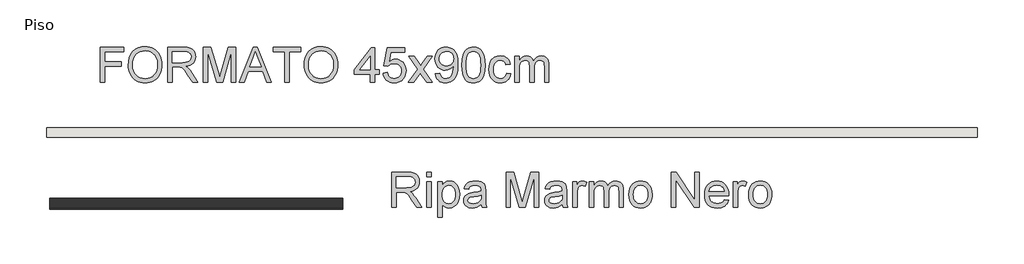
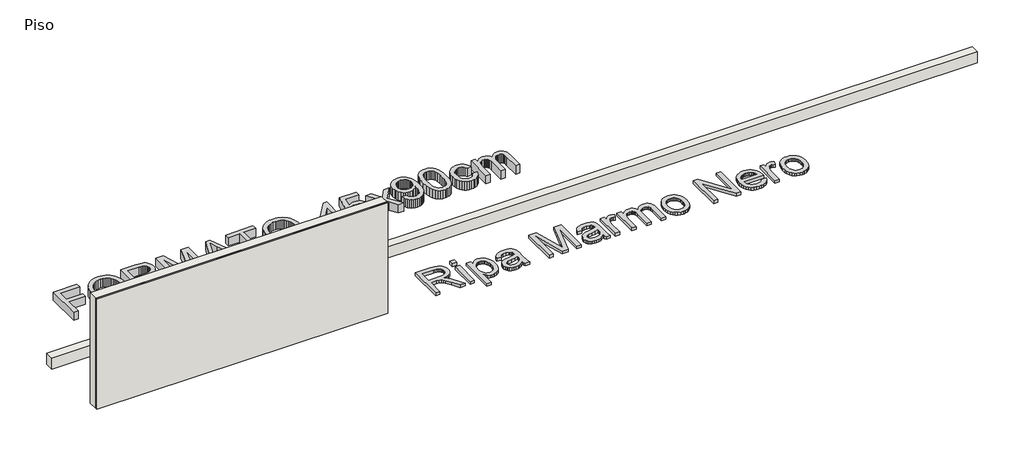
# One storey: 3 walls, 2 proxies.
"""IFC4 building model written with IfcOpenShell, lengths in millimetres."""

from ifc_helpers import new_model, si_unit, origin, origin_with_axes, place, context, project, spatial, polyline, outline, extrude, element, save

model = new_model("IFC4")

# Units and contexts
model_context = context("Model", 3, world=origin())
ifc_project = project(units=[si_unit("LENGTHUNIT", "METRE", prefix="MILLI")], contexts=[model_context])

# Site, building, storey
site = spatial("IfcSite", under=ifc_project)
building = spatial("IfcBuilding", under=site)
storey = spatial("IfcBuildingStorey", under=building, Name="Piso", Elevation=0.0)

# Proxies
placement = place(None, origin())
element("IfcBuildingElementProxy", 1, Name="600mm Arial", ObjectType="600mm Arial", at=placement, inside=storey, context=model_context, shape_type="SweptSolid", body=[
    extrude(outline(polyline([(92602.0859381, 2702.6380465), (92602.0859381, 3305.3759074), (93007.0504384, 3305.3759074), (93007.0504384, 3230.0336748), (92677.4281707, 3230.0336748), (92677.4281707, 3051.0958724), (92959.961543, 3051.0958724), (92959.961543, 2975.7536397), (92677.4281707, 2975.7536397), (92677.4281707, 2702.6380465), (92602.0859381, 2702.6380465)])), origin_with_axes(), (0.0, 0.0, 1.0), 150.0),
    extrude(outline(polyline([(93082.392671, 2996.0607259), (93087.4142602, 3066.7584483), (93102.4790279, 3129.3443727), (93127.5869741, 3183.8184992), (93143.9071391, 3208.0136381), (93162.7380987, 3230.1808276), (93205.8262774, 3267.1989534), (93254.7453857, 3293.6404718), (93309.4954237, 3309.5053828), (93370.0763912, 3314.7936865), (93410.6261841, 3312.310483), (93449.134232, 3304.8608726), (93485.6005348, 3292.4448553), (93520.0250925, 3275.062431), (93551.4422148, 3253.2378317), (93578.8862117, 3227.495289), (93602.357083, 3197.8348032), (93621.8548287, 3164.2563741), (93637.1771138, 3127.5233569), (93648.1216032, 3088.3991067), (93654.6882968, 3046.8836235), (93656.8771947, 3002.9769074), (93654.5733337, 2958.4907771), (93647.6617507, 2916.4142739), (93636.1424457, 2876.7473978), (93620.0154187, 2839.4901487), (93599.6623474, 2805.6266111), (93575.4649091, 2776.1408692), (93547.423104, 2751.032923), (93515.5369321, 2730.3027726), (93481.0617906, 2714.0791766), (93445.2530769, 2702.4908937), (93408.110791, 2695.537924), (93369.6349328, 2693.2202674), (93328.3769671, 2695.7816458), (93289.3630815, 2703.465781), (93252.5932761, 2716.272673), (93218.0675508, 2734.2023217), (93186.6872166, 2756.56035), (93159.3535844, 2782.6523805), (93136.0666541, 2812.4784132), (93116.8264257, 2846.0384482), (93101.761658, 2881.9851177), (93091.0011097, 2918.9710538), (93084.5447807, 2956.9962565), (93082.392671, 2996.0607259)]), holes=[polyline([(93157.7349036, 2995.3249619), (93161.5010955, 2945.375784), (93172.7996713, 2901.0368065), (93191.6306309, 2862.3080295), (93217.9939744, 2829.1894529), (93250.0410947, 2802.665161), (93285.9233848, 2783.7192383), (93325.6408447, 2772.3516846), (93369.1934744, 2768.5625001), (93413.4910652, 2772.3884728), (93453.6775746, 2783.8663911), (93489.7530028, 2802.9962548), (93521.7173496, 2829.7780641), (93547.8875551, 2863.5956165), (93566.5805589, 2903.8327097), (93577.7963613, 2950.4893437), (93581.5349621, 3003.5655186), (93579.9346754, 3038.0452586), (93575.1338153, 3070.2625243), (93567.1323819, 3100.2173158), (93555.9303752, 3127.9096329), (93541.6519553, 3152.9761924), (93524.4212823, 3175.0537106), (93504.2383563, 3194.1421877), (93481.1031774, 3210.2416235), (93455.7331153, 3223.0209243), (93428.84554, 3232.1489963), (93400.4404514, 3237.6258395), (93370.5178496, 3239.4514539), (93328.4781346, 3235.9335823), (93289.4734461, 3225.3799676), (93253.503784, 3207.7906097), (93220.5691484, 3183.1655086), (93193.0791663, 3150.318245), (93173.4434648, 3108.0623993), (93161.6620439, 3056.3979716), (93157.7349036, 2995.3249619)])]), origin_with_axes(), (0.0, 0.0, 1.0), 150.0),
    extrude(outline(polyline([(93760.4727645, 2702.6380465), (93760.4727645, 3305.3759074), (94020.1974531, 3305.3759074), (94090.0030617, 3301.3108114), (94140.7891711, 3289.1155232), (94160.3880844, 3279.4218327), (94177.9084644, 3266.6011451), (94193.3503112, 3250.6534606), (94206.7136247, 3231.5787792), (94217.4971656, 3210.4025718), (94225.1996949, 3188.1503097), (94229.8212125, 3164.8219926), (94231.3617183, 3140.4176208), (94228.809537, 3109.4603509), (94221.152993, 3081.0414668), (94208.3920863, 3055.1609684), (94190.5268169, 3031.8188558), (94167.3272585, 3011.76009), (94138.563485, 2995.7296321), (94104.2354964, 2983.727482), (94064.3432925, 2975.7536397), (94089.1753272, 2959.5300438), (94107.1647568, 2943.527177), (94138.0300562, 2906.9229184), (94168.233168, 2865.9776524), (94268.738529, 2702.6380465), (94181.1826142, 2702.6380465), (94102.7501728, 2827.5707721), (94046.0963456, 2910.2706446), (94025.0351013, 2934.3853094), (94006.2915137, 2949.3397125), (93970.4598074, 2963.6871103), (93926.7554263, 2966.3358607), (93835.8149971, 2966.3358607), (93835.8149971, 2702.6380465), (93760.4727645, 2702.6380465)]), holes=[polyline([(93835.8149971, 3041.6780933), (94004.4521037, 3041.6780933), (94052.8837684, 3044.3452377), (94090.4629142, 3052.3466711), (94118.7530396, 3066.2158224), (94139.3176431, 3086.4861203), (94151.8440251, 3111.0054553), (94156.0194857, 3137.6217176), (94154.0283244, 3156.8895371), (94148.0548405, 3174.3731289), (94138.099034, 3190.0724931), (94124.1609049, 3203.9876296), (94105.9185565, 3215.3827744), (94083.050092, 3223.5221635), (94055.5555114, 3228.405797), (94023.4348147, 3230.0336748), (93835.8149971, 3230.0336748), (93835.8149971, 3041.6780933)])]), origin_with_axes(), (0.0, 0.0, 1.0), 150.0),
    extrude(outline(polyline([(94363.2106254, 2702.6380465), (94363.2106254, 3305.3759074), (94492.8522405, 3305.3759074), (94616.1662853, 2880.5457794), (94641.0351082, 2791.8126422), (94667.9640702, 2887.9034193), (94789.2179758, 3305.3759074), (94918.8595909, 3305.3759074), (94918.8595909, 2702.6380465), (94843.5173583, 2702.6380465), (94843.5173583, 3230.0336748), (94692.0971291, 2702.6380465), (94589.9730872, 2702.6380465), (94438.552858, 3230.0336748), (94438.552858, 2702.6380465), (94363.2106254, 2702.6380465)])), origin_with_axes(), (0.0, 0.0, 1.0), 150.0),
    extrude(outline(polyline([(94980.5166133, 2702.6380465), (95221.1114382, 3305.3759074), (95285.2700581, 3305.3759074), (95525.864883, 2702.6380465), (95446.2552192, 2702.6380465), (95377.2405569, 2890.9936281), (95128.9937866, 2890.9936281), (95060.1262771, 2702.6380465), (94980.5166133, 2702.6380465)]), holes=[polyline([(95156.6585126, 2966.3358607), (95349.7229837, 2966.3358607), (95295.4236012, 3114.5187283), (95253.1907481, 3230.0336748), (95215.6667846, 3127.4681746), (95156.6585126, 2966.3358607)])]), origin_with_axes(), (0.0, 0.0, 1.0), 150.0),
    extrude(outline(polyline([(95757.0419287, 2702.6380465), (95757.0419287, 3230.0336748), (95559.2685681, 3230.0336748), (95559.2685681, 3305.3759074), (96030.1575219, 3305.3759074), (96030.1575219, 3230.0336748), (95832.3841613, 3230.0336748), (95832.3841613, 2702.6380465), (95757.0419287, 2702.6380465)])), origin_with_axes(), (0.0, 0.0, 1.0), 150.0),
    extrude(outline(polyline([(96086.6641964, 2996.0607259), (96091.6857856, 3066.7584483), (96106.7505533, 3129.3443727), (96131.8584995, 3183.8184992), (96148.1786645, 3208.0136381), (96167.0096242, 3230.1808276), (96210.0978028, 3267.1989534), (96259.0169111, 3293.6404718), (96313.7669491, 3309.5053828), (96374.3479166, 3314.7936865), (96414.8977096, 3312.310483), (96453.4057574, 3304.8608726), (96489.8720602, 3292.4448553), (96524.2966179, 3275.062431), (96555.7137403, 3253.2378317), (96583.1577371, 3227.495289), (96606.6286084, 3197.8348032), (96626.1263541, 3164.2563741), (96641.4486392, 3127.5233569), (96652.3931286, 3088.3991067), (96658.9598222, 3046.8836235), (96661.1487201, 3002.9769074), (96658.8448591, 2958.4907771), (96651.9332761, 2916.4142739), (96640.4139711, 2876.7473978), (96624.2869442, 2839.4901487), (96603.9338728, 2805.6266111), (96579.7364345, 2776.1408692), (96551.6946295, 2751.032923), (96519.8084575, 2730.3027726), (96485.3333161, 2714.0791766), (96449.5246024, 2702.4908937), (96412.3823164, 2695.537924), (96373.9064582, 2693.2202674), (96332.6484925, 2695.7816458), (96293.6346069, 2703.465781), (96256.8648015, 2716.272673), (96222.3390762, 2734.2023217), (96190.958742, 2756.56035), (96163.6251098, 2782.6523805), (96140.3381795, 2812.4784132), (96121.0979512, 2846.0384482), (96106.0331835, 2881.9851177), (96095.2726351, 2918.9710538), (96088.8163061, 2956.9962565), (96086.6641964, 2996.0607259)]), holes=[polyline([(96162.006429, 2995.3249619), (96165.7726209, 2945.375784), (96177.0711967, 2901.0368065), (96195.9021564, 2862.3080295), (96222.2654998, 2829.1894529), (96254.3126201, 2802.665161), (96290.1949102, 2783.7192383), (96329.9123701, 2772.3516846), (96373.4649998, 2768.5625001), (96417.7625906, 2772.3884728), (96457.9491, 2783.8663911), (96494.0245282, 2802.9962548), (96525.988875, 2829.7780641), (96552.1590805, 2863.5956165), (96570.8520844, 2903.8327097), (96582.0678867, 2950.4893437), (96585.8064875, 3003.5655186), (96584.2062008, 3038.0452586), (96579.4053407, 3070.2625243), (96571.4039074, 3100.2173158), (96560.2019006, 3127.9096329), (96545.9234807, 3152.9761924), (96528.6928077, 3175.0537106), (96508.5098818, 3194.1421877), (96485.3747028, 3210.2416235), (96460.0046407, 3223.0209243), (96433.1170654, 3232.1489963), (96404.7119768, 3237.6258395), (96374.789375, 3239.4514539), (96332.74966, 3235.9335823), (96293.7449715, 3225.3799676), (96257.7753094, 3207.7906097), (96224.8406738, 3183.1655086), (96197.3506917, 3150.318245), (96177.7149902, 3108.0623993), (96165.9335693, 3056.3979716), (96162.006429, 2995.3249619)])]), origin_with_axes(), (0.0, 0.0, 1.0), 150.0),
    extrude(outline(polyline([(97216.7976856, 2702.6380465), (97216.7976856, 2843.9047327), (96943.6820924, 2843.9047327), (96943.6820924, 2919.2469653), (97235.6332437, 3295.9581283), (97292.1399182, 3295.9581283), (97292.1399182, 2919.2469653), (97367.4821508, 2919.2469653), (97367.4821508, 2843.9047327), (97292.1399182, 2843.9047327), (97292.1399182, 2702.6380465), (97216.7976856, 2702.6380465)]), holes=[polyline([(97216.7976856, 2919.2469653), (97216.7976856, 3152.0426918), (97036.3883552, 2919.2469653), (97216.7976856, 2919.2469653)])]), origin_with_axes(), (0.0, 0.0, 1.0), 150.0),
    extrude(outline(polyline([(97433.4066044, 2862.7402908), (97508.748837, 2872.1580699), (97514.3774315, 2847.937639), (97522.5812, 2826.9269786), (97533.3601424, 2809.1260886), (97546.7142589, 2794.5349689), (97562.6159581, 2783.1720138), (97581.037649, 2775.0556173), (97601.9793316, 2770.1857794), (97625.4410058, 2768.5625001), (97654.1358015, 2770.8203758), (97679.4460827, 2777.594003), (97701.3718496, 2788.8833818), (97719.9131022, 2804.688512), (97734.6559732, 2824.2276445), (97745.1865953, 2846.7190299), (97751.5049685, 2872.1626684), (97753.611093, 2900.5585599), (97751.6383258, 2927.3955515), (97745.7200242, 2951.2526989), (97735.8561882, 2972.1300021), (97722.0468178, 2990.0274612), (97704.2459277, 3004.384056), (97682.4075328, 3014.6387666), (97656.531633, 3020.791593), (97626.6182282, 3022.8425351), (97590.069152, 3019.5683854), (97560.4730455, 3009.7459361), (97536.8366273, 2994.6995625), (97518.166616, 2975.7536397), (97442.8243834, 2985.1714188), (97508.748837, 3295.9581283), (97800.6999883, 3295.9581283), (97800.6999883, 3220.6158957), (97569.6700954, 3220.6158957), (97537.4436326, 3054.6275395), (97564.0323038, 3073.6838269), (97591.2647685, 3087.2954607), (97619.1410267, 3095.462441), (97647.6610783, 3098.1847677), (97684.3527088, 3094.8094504), (97718.0552981, 3084.6834985), (97748.7688462, 3067.806912), (97776.4933531, 3044.1796908), (97799.444591, 3015.2457719), (97815.8383324, 2982.4490921), (97825.6745773, 2945.7896512), (97828.9533256, 2905.2674495), (97826.0010726, 2866.2351698), (97817.1443135, 2829.9252169), (97802.3830485, 2796.3375907), (97781.7172774, 2765.4722913), (97750.4105196, 2733.8620309), (97713.8798375, 2711.2832734), (97672.125231, 2697.7360189), (97625.1467002, 2693.2202674), (97586.2661719, 2696.1219367), (97551.1472369, 2704.8269444), (97519.7898953, 2719.3352906), (97492.1941472, 2739.6469752), (97469.2337122, 2764.7503229), (97451.78231, 2793.633658), (97439.8399407, 2826.2969807), (97433.4066044, 2862.7402908)])), origin_with_axes(), (0.0, 0.0, 1.0), 150.0),
    extrude(outline(polyline([(97866.6244419, 2702.6380465), (98027.609603, 2925.1330772), (97876.0422209, 3145.2736631), (97966.6883446, 3145.2736631), (98039.8232852, 3039.3236485), (98073.9627344, 2989.2916972), (98103.5404468, 3030.200175), (98186.8289305, 3145.2736631), (98277.4750541, 3145.2736631), (98118.2557266, 2925.1330772), (98271.5889422, 2702.6380465), (98180.9428186, 2702.6380465), (98088.6780142, 2836.39994), (98071.7554424, 2860.8273045), (97957.2705655, 2702.6380465), (97866.6244419, 2702.6380465)])), origin_with_axes(), (0.0, 0.0, 1.0), 150.0),
    extrude(outline(polyline([(98328.0956166, 2853.3225117), (98403.4378492, 2862.7402908), (98416.3137191, 2819.9740089), (98425.7866804, 2803.7090262), (98437.2829928, 2790.856149), (98450.6738974, 2781.1026776), (98465.8306356, 2774.1359123), (98501.4416127, 2768.5625001), (98533.392164, 2772.1493495), (98562.4364475, 2782.9098979), (98586.5695064, 2799.6669228), (98603.7863838, 2821.2432018), (98616.8278005, 2849.6069036), (98628.4344775, 2886.7261969), (98636.6014578, 2929.326932), (98639.3237845, 2974.134959), (98638.8823261, 2988.8502388), (98612.7810986, 2956.991658), (98578.6232553, 2931.7549531), (98538.8736058, 2915.3106279), (98495.9969592, 2909.8291862), (98460.2066396, 2913.1769124), (98427.2949966, 2923.2200908), (98397.2620302, 2939.9587216), (98370.1077405, 2963.3928047), (98347.6071579, 2992.2991325), (98331.5353133, 3025.4544973), (98321.8922065, 3062.8588992), (98318.6778375, 3104.5123381), (98322.0485563, 3147.5545315), (98332.1607127, 3186.182141), (98349.0143066, 3220.3951665), (98372.609338, 3250.1936081), (98401.281141, 3274.3358641), (98433.3650495, 3291.5803326), (98468.8610636, 3301.9270137), (98507.7691831, 3305.3759074), (98536.4961684, 3303.4077387), (98563.9631578, 3297.5032327), (98590.1701515, 3287.6623894), (98615.1171493, 3273.8852086), (98637.9718182, 3256.4659962), (98657.9018253, 3235.6990575), (98674.9071705, 3211.5843928), (98688.9878539, 3184.1220018), (98700.0289123, 3151.7299921), (98707.9153825, 3112.8264711), (98712.6472647, 3067.4114388), (98714.2245588, 3015.4848952), (98712.6518632, 2960.950988), (98707.9337766, 2912.2756015), (98700.070299, 2869.4587358), (98689.0614303, 2832.5003908), (98674.9485572, 2800.4992558), (98657.7730666, 2772.5540197), (98637.5349583, 2748.6646826), (98614.2342325, 2728.8312446), (98588.3399385, 2713.2514421), (98560.3211261, 2702.1230117), (98530.1777951, 2695.4459535), (98497.9099456, 2693.2202674), (98464.0739991, 2695.8460252), (98433.4938082, 2703.7232984), (98406.169373, 2716.8520871), (98382.1006935, 2735.2323913), (98361.8947749, 2758.3675703), (98346.1586226, 2785.7609833), (98334.8922365, 2817.4126305), (98328.0956166, 2853.3225117)]), holes=[polyline([(98638.8823261, 3106.2781716), (98636.8497781, 3133.2807101), (98630.7521341, 3157.3401926), (98620.5893939, 3178.4566191), (98606.3615578, 3196.6299896), (98588.7676014, 3211.2441019), (98568.5065005, 3221.6827535), (98545.5782551, 3227.9459445), (98519.9828653, 3230.0336748), (98493.5689381, 3227.7849961), (98469.6566084, 3221.03896), (98448.2458762, 3209.7955666), (98429.3367417, 3194.0548157), (98413.8856979, 3174.7364124), (98402.849238, 3152.7600617), (98396.2273621, 3128.1257636), (98394.0200702, 3100.8335181), (98396.1078005, 3076.3555699), (98402.3709914, 3054.2780516), (98412.8096431, 3034.6009634), (98427.4237553, 3017.3243052), (98445.6063229, 3003.2574174), (98466.7503406, 2993.2096404), (98490.8558083, 2987.1809742), (98517.9227261, 2985.1714188), (98543.1640295, 2987.1809742), (98566.0600852, 2993.2096404), (98586.6108932, 3003.2574174), (98604.8164534, 3017.3243052), (98619.7202727, 3034.9412542), (98630.365858, 3055.639215), (98636.7532091, 3079.4181875), (98638.8823261, 3106.2781716)])]), origin_with_axes(), (0.0, 0.0, 1.0), 150.0),
    extrude(outline(polyline([(98780.1490123, 2999.1509346), (98785.6856363, 3095.6279879), (98792.6064164, 3136.5410643), (98802.2955084, 3172.5705072), (98814.7115257, 3204.0106222), (98829.8130816, 3231.1557149), (98847.6001761, 3254.0057853), (98868.0728091, 3272.5608335), (98891.2999586, 3286.9174283), (98917.3506024, 3297.1721389), (98946.2247405, 3303.3249653), (98977.9223729, 3305.3759074), (99024.3490807, 3300.5198651), (99065.9197461, 3285.9517381), (99100.6845947, 3262.2417435), (99126.6938518, 3229.9600984), (99146.3387503, 3189.3827143), (99162.0105233, 3140.7855028), (99172.274431, 3079.0732981), (99175.6957335, 2999.1509346), (99170.2142918, 2903.2257044), (99163.3624896, 2862.4505838), (99153.7699666, 2826.4671261), (99141.4505183, 2795.0132155), (99126.4179403, 2767.8267361), (99108.6722325, 2744.9076878), (99088.2133951, 2726.2560706), (99064.9586544, 2711.8029067), (99038.8252372, 2701.4792182), (99009.8131434, 2695.2850051), (98977.9223729, 2693.2202674), (98936.4252838, 2696.8071169), (98899.6370843, 2707.5676653), (98867.5577743, 2725.5019125), (98840.1873539, 2750.6098587), (98813.9205795, 2795.9972999), (98795.1585977, 2852.5499596), (98783.9014086, 2920.2678378), (98780.1490123, 2999.1509346)]), holes=[polyline([(98855.4912449, 2999.2980874), (98857.6985369, 2933.8012967), (98864.3204128, 2880.7849027), (98875.3568726, 2840.2489053), (98890.8079164, 2812.1933047), (98909.4963218, 2793.1048277), (98930.2448663, 2779.4702012), (98953.05355, 2771.2894254), (98977.9223729, 2768.5625001), (99002.7911958, 2771.2986224), (99025.5998795, 2779.5069894), (99046.348424, 2793.1876011), (99065.0368294, 2812.3404575), (99080.4878732, 2840.4420434), (99091.524333, 2880.9688437), (99098.1462089, 2933.9208584), (99100.3535009, 2999.2980874), (99098.2197853, 3063.0612342), (99091.8186386, 3115.1441277), (99081.1500607, 3155.5467678), (99066.2140517, 3184.2691546), (99047.8383461, 3204.2911322), (99026.8506783, 3218.5925448), (99003.2510483, 3227.1733923), (98977.0394561, 3230.0336748), (98952.2993919, 3227.5136831), (98929.8769843, 3219.9537081), (98909.7722333, 3207.3537498), (98891.9851388, 3189.7138081), (98876.0190602, 3158.4438385), (98864.6147184, 3116.2845619), (98857.7721133, 3063.2359782), (98855.4912449, 2999.2980874)])]), origin_with_axes(), (0.0, 0.0, 1.0), 150.0),
    extrude(outline(polyline([(99542.9891175, 2862.7402908), (99618.3313501, 2853.3225117), (99610.1367787, 2817.7713154), (99597.3252882, 2786.3128063), (99579.8968787, 2758.9469844), (99557.8515501, 2735.6738497), (99532.1182045, 2717.1004075), (99503.625744, 2703.833663), (99472.3741685, 2695.8736163), (99438.3634781, 2693.2202674), (99396.1076324, 2696.92208), (99358.2203854, 2708.0275178), (99324.7017371, 2726.5365806), (99295.5516875, 2752.4492687), (99271.9566561, 2785.2781382), (99255.1030622, 2824.5357456), (99244.9909058, 2870.2220909), (99241.620187, 2922.337174), (99247.3775403, 2989.3836677), (99254.5742318, 3019.5545898), (99264.6495999, 3047.4906288), (99277.6726226, 3072.6307646), (99293.7122776, 3094.4139773), (99312.7685649, 3112.8402667), (99334.8414846, 3127.9096329), (99358.9331568, 3139.6266745), (99384.0457015, 3147.9959899), (99410.1791187, 3153.0175791), (99437.3334085, 3154.6914422), (99470.7600863, 3152.3921797), (99500.9953877, 3145.4943923), (99528.0393129, 3133.99808), (99551.8918618, 3117.9032427), (99572.1483641, 3097.5777624), (99588.4041498, 3073.3895213), (99600.6592188, 3045.3385191), (99608.913571, 3013.4247561), (99533.5713384, 3004.006977), (99519.9045223, 3036.8772332), (99498.6225489, 3060.440075), (99470.9026405, 3074.6219259), (99437.9220197, 3079.3492096), (99412.3220313, 3077.022356), (99389.2328376, 3070.0417951), (99368.6544385, 3058.407527), (99350.586834, 3042.1195517), (99335.8761527, 3020.8007901), (99325.3685232, 2994.0741631), (99319.0639456, 2961.9396708), (99316.9624197, 2924.3973132), (99319.0179603, 2886.289337), (99325.1845822, 2853.7823642), (99335.4622855, 2826.8763948), (99349.85107, 2805.5714288), (99367.5599896, 2789.3800225), (99387.7980978, 2777.8147322), (99410.5653948, 2770.8755581), (99435.8618805, 2768.5625001), (99474.8757661, 2774.3382474), (99491.7477541, 2781.5579315), (99506.8631056, 2791.6654894), (99519.7987562, 2804.7712854), (99530.1316418, 2820.9856844), (99537.8617622, 2840.3086862), (99542.9891175, 2862.7402908)])), origin_with_axes(), (0.0, 0.0, 1.0), 150.0),
    extrude(outline(polyline([(99684.2558036, 2702.6380465), (99684.2558036, 3145.2736631), (99759.5980363, 3145.2736631), (99759.5980363, 3072.4330281), (99782.2595672, 3105.8918955), (99811.3958212, 3132.1034877), (99846.0135169, 3149.0444536), (99885.119373, 3154.6914422), (99927.0211323, 3148.934089), (99944.854212, 3141.7373974), (99960.6087584, 3131.6620293), (99985.6983105, 3104.0156974), (100002.1058475, 3067.1355273), (100029.5682384, 3105.4412401), (100060.8933903, 3132.8024635), (100096.0813031, 3149.2191975), (100135.1319769, 3154.6914422), (100165.293702, 3152.4151724), (100191.7674101, 3145.5863628), (100214.5531012, 3134.2050136), (100233.6507752, 3118.2711247), (100248.7477326, 3097.6007551), (100259.5312736, 3072.0099638), (100266.0013982, 3041.4987508), (100268.1581064, 3006.0671161), (100268.1581064, 2702.6380465), (100192.8158738, 2702.6380465), (100192.8158738, 2973.6935006), (100191.0684343, 3011.2726464), (100185.8261159, 3036.6013217), (100176.0036666, 3053.9469578), (100160.5158346, 3067.5769857), (100140.5950246, 3076.4061536), (100117.4736412, 3079.3492096), (100096.1226899, 3077.4638144), (100076.6571338, 3071.8076287), (100059.076973, 3062.3806526), (100043.3822073, 3049.182886), (100030.4741478, 3031.8280529), (100021.2541053, 3009.9298771), (100015.7220798, 2983.4883587), (100013.8780713, 2952.5034976), (100013.8780713, 2702.6380465), (99938.5358387, 2702.6380465), (99938.5358387, 2982.0812101), (99934.1764371, 3024.6819451), (99928.727185, 3041.4021818), (99921.0982321, 3055.0689979), (99910.9860758, 3065.6915905), (99898.0872133, 3073.2791567), (99882.4016448, 3077.8316964), (99863.9293701, 3079.3492096), (99834.9034807, 3075.3025076), (99808.1584596, 3063.1624018), (99786.0855399, 3043.2231977), (99771.0759545, 3015.7792008), (99762.4675158, 2977.7034143), (99759.5980363, 2925.8688412), (99759.5980363, 2702.6380465), (99684.2558036, 2702.6380465)])), origin_with_axes(), (0.0, 0.0, 1.0), 150.0),
])
element("IfcBuildingElementProxy", 2, Name="600mm Arial", ObjectType="600mm Arial", at=placement, inside=storey, context=model_context, shape_type="SweptSolid", body=[
    extrude(outline(polyline([(97584.9871442, 566.0682112), (97584.9871442, 1168.8060721), (97844.7118328, 1168.8060721), (97914.5174414, 1164.740976), (97965.3035509, 1152.5456879), (97984.9024642, 1142.8519973), (98002.4228442, 1130.0313098), (98017.8646909, 1114.0836253), (98031.2280044, 1095.0089438), (98042.0115454, 1073.8327365), (98049.7140747, 1051.5804743), (98054.3355922, 1028.2521573), (98055.8760981, 1003.8477854), (98053.3239167, 972.8905155), (98045.6673727, 944.4716314), (98032.906466, 918.5911331), (98015.0411966, 895.2490205), (97991.8416383, 875.1902547), (97963.0778648, 859.1597967), (97928.7498761, 847.1576466), (97888.8576723, 839.1838044), (97913.6897069, 822.9602084), (97931.6791365, 806.9573416), (97962.5444359, 770.3530831), (97992.7475477, 729.407817), (98093.2529088, 566.0682112), (98005.6969939, 566.0682112), (97927.2645526, 691.0009367), (97870.6107253, 773.7008093), (97849.5494811, 797.815474), (97830.8058934, 812.7698771), (97794.9741871, 827.117275), (97751.2698061, 829.7660253), (97660.3293769, 829.7660253), (97660.3293769, 566.0682112), (97584.9871442, 566.0682112)]), holes=[polyline([(97660.3293769, 905.1082579), (97828.9664834, 905.1082579), (97877.3981481, 907.7754024), (97914.9772939, 915.7768358), (97943.2674193, 929.645987), (97963.8320229, 949.9162849), (97976.3584048, 974.4356199), (97980.5338655, 1001.0518823), (97978.5427042, 1020.3197018), (97972.5692203, 1037.8032936), (97962.6134138, 1053.5026577), (97948.6752847, 1067.4177942), (97930.4329362, 1078.812939), (97907.5644717, 1086.9523281), (97880.0698911, 1091.8359616), (97847.9491944, 1093.4638395), (97660.3293769, 1093.4638395), (97660.3293769, 905.1082579)])]), origin_with_axes(), (0.0, 0.0, 1.0), 50.0),
    extrude(outline(polyline([(98178.3072261, 1093.4638395), (98178.3072261, 1168.8060721), (98253.6494587, 1168.8060721), (98253.6494587, 1093.4638395), (98178.3072261, 1093.4638395)])), origin_with_axes(), (0.0, 0.0, 1.0), 50.0),
    extrude(outline(polyline([(98178.3072261, 566.0682112), (98178.3072261, 1008.7038278), (98253.6494587, 1008.7038278), (98253.6494587, 566.0682112), (98178.3072261, 566.0682112)])), origin_with_axes(), (0.0, 0.0, 1.0), 50.0),
    extrude(outline(polyline([(98366.6628076, 396.5481878), (98366.6628076, 1008.7038278), (98442.0050402, 1008.7038278), (98442.0050402, 934.8331231), (98466.5795575, 971.2718348), (98494.0971307, 997.2994859), (98526.1764407, 1012.9160766), (98564.4361682, 1018.1216069), (98590.7121397, 1016.300591), (98615.3878245, 1010.8375433), (98638.4632227, 1001.732464), (98659.9383342, 988.9853528), (98679.3441094, 972.9273037), (98696.2114989, 953.8894105), (98710.5405026, 931.8716731), (98722.3311205, 906.8740915), (98738.1132581, 851.3606984), (98743.3739707, 790.7705338), (98737.4326764, 726.3360024), (98730.0060587, 696.670918), (98719.6087938, 668.7072878), (98706.383436, 643.1762774), (98690.4725398, 620.8090521), (98671.8761049, 601.6056119), (98650.5941315, 585.5659569), (98627.6704847, 572.9154148), (98604.1490296, 563.8793133), (98580.0297663, 558.4576524), (98555.3126947, 556.6504321), (98520.6766049, 561.4880803), (98489.7561232, 576.001025), (98463.2870136, 597.9083979), (98442.0050402, 624.9293304), (98442.0050402, 396.5481878), (98366.6628076, 396.5481878)]), holes=[polyline([(98442.0050402, 783.8543523), (98444.0421868, 747.5443994), (98450.1536264, 716.311218), (98460.3393591, 690.1548082), (98474.599385, 669.0751698), (98491.7656786, 652.8515738), (98510.6702146, 641.263291), (98531.3129931, 634.3103213), (98553.6940139, 631.9926647), (98576.3969316, 634.3930947), (98597.4167891, 641.5943848), (98616.7535864, 653.5965349), (98634.4073237, 670.399545), (98649.118005, 692.2425385), (98659.6256345, 719.3646386), (98665.9302122, 751.7658453), (98668.031738, 789.4461586), (98665.9807959, 825.4434119), (98659.8279696, 856.621411), (98649.5732589, 882.9801559), (98635.2166641, 904.5196467), (98618.0089838, 921.2582775), (98599.2010168, 933.2144424), (98578.7927631, 940.3881413), (98556.7842227, 942.7793742), (98534.8446602, 940.2363899), (98514.2018818, 932.6074371), (98494.8558873, 919.8925156), (98476.806677, 902.0916256), (98461.5809609, 879.4438902), (98450.7054494, 852.1884329), (98444.1801425, 820.3252536), (98442.0050402, 783.8543523)])]), origin_with_axes(), (0.0, 0.0, 1.0), 50.0),
    extrude(outline(polyline([(99110.6673546, 622.5748856), (99074.6701014, 591.7095862), (99037.6059904, 571.5128647), (98998.628893, 560.3660403), (98956.8926807, 556.6504321), (98923.3464412, 558.8853152), (98893.9296772, 565.5899646), (98868.6423885, 576.7643802), (98847.4845753, 592.408562), (98830.7781342, 611.5292287), (98818.844962, 633.1330989), (98811.6850586, 657.2201725), (98809.2984242, 683.7904496), (98812.9036677, 715.023631), (98823.7193984, 743.3873329), (98840.4028469, 767.6675445), (98861.6112439, 786.6502555), (98886.5352491, 800.9976533), (98914.365522, 811.3719256), (98979.5542116, 822.702691), (99056.5887014, 834.6220677), (99110.2258963, 848.6015835), (99110.6673546, 865.3770025), (99105.4802185, 899.0014168), (99098.9962983, 911.4542223), (99089.9188101, 921.0007601), (99074.228643, 930.5289038), (99055.1171734, 937.3347207), (99006.6303264, 942.7793742), (98961.748723, 939.1557366), (98930.405177, 928.2848236), (98909.0312331, 908.1800726), (98894.0584359, 876.8549207), (98818.7162033, 886.2726998), (98831.7944082, 927.4754832), (98851.310548, 959.8490988), (98879.0856387, 984.6075571), (98916.940696, 1002.9648687), (98963.2386451, 1014.3324223), (99016.3424111, 1018.1216069), (99067.2756733, 1014.7738807), (99107.6507223, 1004.7307022), (99138.0929574, 989.6291463), (99159.227778, 971.1062879), (99173.244082, 948.2056337), (99182.3307673, 919.9706905), (99186.0095873, 854.046237), (99186.0095873, 760.3099046), (99189.83556, 629.4174907), (99195.5009427, 597.0622693), (99204.8451454, 566.0682112), (99129.5029128, 566.0682112), (99117.4363834, 592.2614092), (99110.6673546, 622.5748856)]), holes=[polyline([(99110.6673546, 773.2593509), (99060.0467921, 760.7145748), (98989.1191434, 750.1563616), (98924.2983359, 737.9426793), (98907.4309464, 729.591758), (98894.9413527, 718.0770516), (98887.2158308, 704.2814768), (98884.6406568, 689.0879504), (98890.2508572, 666.6839369), (98907.0814585, 648.3266253), (98934.7645787, 636.0761549), (98972.9323357, 631.9926647), (99013.3993551, 636.4992192), (99049.1574851, 650.0188825), (99078.1465863, 669.9396925), (99098.3065196, 693.6496871), (99107.2460521, 718.0770516), (99110.2258963, 751.9221951), (99110.6673546, 773.2593509)])]), origin_with_axes(), (0.0, 0.0, 1.0), 50.0),
    extrude(outline(polyline([(99534.4674131, 566.0682112), (99534.4674131, 1168.8060721), (99664.1090282, 1168.8060721), (99787.423073, 743.975944), (99812.2918958, 655.2428068), (99839.2208579, 751.3335839), (99960.4747635, 1168.8060721), (100090.1163786, 1168.8060721), (100090.1163786, 566.0682112), (100014.774146, 566.0682112), (100014.774146, 1093.4638395), (99863.3539168, 566.0682112), (99761.2298749, 566.0682112), (99609.8096457, 1093.4638395), (99609.8096457, 566.0682112), (99534.4674131, 566.0682112)])), origin_with_axes(), (0.0, 0.0, 1.0), 50.0),
    extrude(outline(polyline([(100495.0808789, 622.5748856), (100459.0836257, 591.7095862), (100422.0195147, 571.5128647), (100383.0424173, 560.3660403), (100341.3062049, 556.6504321), (100307.7599655, 558.8853152), (100278.3432014, 565.5899646), (100253.0559128, 576.7643802), (100231.8980995, 592.408562), (100215.1916584, 611.5292287), (100203.2584862, 633.1330989), (100196.0985829, 657.2201725), (100193.7119484, 683.7904496), (100197.317192, 715.023631), (100208.1329227, 743.3873329), (100224.8163711, 767.6675445), (100246.0247682, 786.6502555), (100270.9487733, 800.9976533), (100298.7790463, 811.3719256), (100363.9677358, 822.702691), (100441.0022256, 834.6220677), (100494.6394205, 848.6015835), (100495.0808789, 865.3770025), (100489.8937428, 899.0014168), (100483.4098226, 911.4542223), (100474.3323344, 921.0007601), (100458.6421673, 930.5289038), (100439.5306976, 937.3347207), (100391.0438507, 942.7793742), (100346.1622472, 939.1557366), (100314.8187013, 928.2848236), (100293.4447573, 908.1800726), (100278.4719601, 876.8549207), (100203.1297275, 886.2726998), (100216.2079325, 927.4754832), (100235.7240723, 959.8490988), (100263.4991629, 984.6075571), (100301.3542202, 1002.9648687), (100347.6521693, 1014.3324223), (100400.7559353, 1018.1216069), (100451.6891976, 1014.7738807), (100492.0642465, 1004.7307022), (100522.5064816, 989.6291463), (100543.6413023, 971.1062879), (100557.6576063, 948.2056337), (100566.7442916, 919.9706905), (100570.4231115, 854.046237), (100570.4231115, 760.3099046), (100574.2490843, 629.4174907), (100579.914467, 597.0622693), (100589.2586697, 566.0682112), (100513.916437, 566.0682112), (100501.8499076, 592.2614092), (100495.0808789, 622.5748856)]), holes=[polyline([(100495.0808789, 773.2593509), (100444.4603164, 760.7145748), (100373.5326677, 750.1563616), (100308.7118601, 737.9426793), (100291.8444707, 729.591758), (100279.3548769, 718.0770516), (100271.629355, 704.2814768), (100269.0541811, 689.0879504), (100274.6643815, 666.6839369), (100291.4949828, 648.3266253), (100319.1781029, 636.0761549), (100357.3458599, 631.9926647), (100397.8128794, 636.4992192), (100433.5710093, 650.0188825), (100462.5601105, 669.9396925), (100482.7200439, 693.6496871), (100491.6595763, 718.0770516), (100494.6394205, 751.9221951), (100495.0808789, 773.2593509)])]), origin_with_axes(), (0.0, 0.0, 1.0), 50.0),
    extrude(outline(polyline([(100674.0186813, 566.0682112), (100674.0186813, 1008.7038278), (100739.9431349, 1008.7038278), (100739.9431349, 943.2208326), (100764.296923, 981.1862545), (100786.7377247, 1003.5534798), (100809.2521028, 1014.4795751), (100833.8266201, 1018.1216069), (100871.3505836, 1012.3090713), (100909.4631583, 994.8714648), (100884.3000298, 927.3283304), (100857.8125261, 938.9166133), (100831.3250225, 942.7793742), (100808.8290385, 939.0637661), (100788.7242874, 927.9169416), (100772.4822974, 910.1850295), (100761.5745962, 886.7141582), (100752.4143345, 844.6284579), (100749.360914, 798.7167849), (100749.360914, 566.0682112), (100674.0186813, 566.0682112)])), origin_with_axes(), (0.0, 0.0, 1.0), 50.0),
    extrude(outline(polyline([(100956.5520536, 566.0682112), (100956.5520536, 1008.7038278), (101031.8942863, 1008.7038278), (101031.8942863, 935.8631927), (101054.5558172, 969.3220602), (101083.6920712, 995.5336523), (101118.3097669, 1012.4746182), (101157.415623, 1018.1216069), (101199.3173823, 1012.3642536), (101217.150462, 1005.1675621), (101232.9050084, 995.092194), (101257.9945605, 967.445862), (101274.4020975, 930.565692), (101301.8644884, 968.8714047), (101333.1896403, 996.2326281), (101368.3775531, 1012.6493622), (101407.4282269, 1018.1216069), (101437.589952, 1015.845337), (101464.0636601, 1009.0165275), (101486.8493512, 997.6351782), (101505.9470252, 981.7012893), (101521.0439826, 961.0309197), (101531.8275236, 935.4401284), (101538.2976482, 904.9289155), (101540.4543564, 869.4972808), (101540.4543564, 566.0682112), (101465.1121238, 566.0682112), (101465.1121238, 837.1236652), (101463.3646843, 874.702811), (101458.1223659, 900.0314864), (101448.2999166, 917.3771225), (101432.8120846, 931.0071504), (101412.8912746, 939.8363183), (101389.7698912, 942.7793742), (101368.4189399, 940.893979), (101348.9533838, 935.2377933), (101331.373223, 925.8108172), (101315.6784573, 912.6130506), (101302.7703978, 895.2582175), (101293.5503553, 873.3600417), (101288.0183298, 846.9185233), (101286.1743213, 815.9336623), (101286.1743213, 566.0682112), (101210.8320887, 566.0682112), (101210.8320887, 845.5113747), (101206.4726871, 888.1121098), (101201.023435, 904.8323464), (101193.3944821, 918.4991626), (101183.2823258, 929.1217552), (101170.3834633, 936.7093213), (101154.6978948, 941.261861), (101136.2256201, 942.7793742), (101107.1997307, 938.7326723), (101080.4547096, 926.5925665), (101058.3817899, 906.6533623), (101043.3722045, 879.2093655), (101034.7637658, 841.133579), (101031.8942863, 789.2990059), (101031.8942863, 566.0682112), (100956.5520536, 566.0682112)])), origin_with_axes(), (0.0, 0.0, 1.0), 50.0),
    extrude(outline(polyline([(101634.6321472, 787.3860195), (101638.7064403, 844.7112314), (101650.9293195, 894.1085863), (101671.300785, 935.5780842), (101699.8208367, 969.1197251), (101728.5340264, 990.5580484), (101760.2270603, 1005.8711364), (101794.8999384, 1015.0589892), (101832.5526606, 1018.1216069), (101874.1187275, 1014.3922031), (101911.7024718, 1003.2039919), (101945.3038936, 984.5569733), (101974.9229927, 958.4511472), (101999.0974383, 925.7694305), (102016.3648994, 887.3947399), (102026.7253761, 843.3270754), (102030.1788684, 793.566437), (102028.6521581, 753.2373733), (102024.0720272, 717.4516522), (102016.4384758, 686.2092738), (102005.7515039, 659.510238), (101992.1444686, 636.4486354), (101975.7507272, 616.1185566), (101956.5702797, 598.5200017), (101934.603126, 583.6529705), (101910.7045919, 571.83936), (101885.730003, 563.4010667), (101859.6793592, 558.3380908), (101832.5526606, 556.6504321), (101790.3795883, 560.3660403), (101752.4463561, 571.5128647), (101718.7529639, 590.0909055), (101689.2994116, 616.1001625), (101665.3824834, 649.0991775), (101648.2989633, 688.646492), (101638.0488512, 734.742106), (101634.6321472, 787.3860195)]), holes=[polyline([(101709.9743798, 787.5331723), (101712.1540806, 750.9886946), (101718.6931831, 719.3462445), (101729.5916872, 692.6058219), (101744.8495929, 670.767427), (101763.4092396, 653.8034685), (101784.2129664, 641.6863553), (101807.2607734, 634.4160874), (101832.5526606, 631.9926647), (101857.715789, 634.4298829), (101880.6716255, 641.7415376), (101901.4201701, 653.9276287), (101919.9614226, 670.9881562), (101935.2193284, 693.0426818), (101946.1178325, 720.2107672), (101952.6569349, 752.4924122), (101954.8366358, 789.887617), (101952.6431394, 825.2732665), (101946.0626502, 856.0879821), (101935.0951682, 882.3317639), (101919.7406934, 904.0046119), (101901.130463, 920.9685705), (101880.395714, 933.0856837), (101857.5364466, 940.3559516), (101832.5526606, 942.7793742), (101807.2607734, 940.3651486), (101784.2129664, 933.1224719), (101763.4092396, 921.0513439), (101744.8495929, 904.1517647), (101729.5916872, 882.3777492), (101718.6931831, 855.6833119), (101712.1540806, 824.0684529), (101709.9743798, 787.5331723)])]), origin_with_axes(), (0.0, 0.0, 1.0), 50.0),
    extrude(outline(polyline([(102359.801136, 566.0682112), (102359.801136, 1168.8060721), (102440.4408694, 1168.8060721), (102755.3478573, 691.2952423), (102755.3478573, 1168.8060721), (102830.6900899, 1168.8060721), (102830.6900899, 566.0682112), (102750.0503565, 566.0682112), (102435.1433687, 1043.7261937), (102435.1433687, 566.0682112), (102359.801136, 566.0682112)])), origin_with_axes(), (0.0, 0.0, 1.0), 50.0),
    extrude(outline(polyline([(103263.0250106, 697.9171182), (103336.8957152, 688.4993392), (103325.5695483, 658.9124297), (103310.2794529, 632.8387933), (103291.025429, 610.2784299), (103267.8074765, 591.2313396), (103240.8647189, 576.1021926), (103210.4362794, 565.295659), (103176.522158, 558.8117388), (103139.1223546, 556.6504321), (103092.3737501, 560.3798358), (103050.7203112, 571.568047), (103014.1620379, 590.2150656), (102982.6989303, 616.3208917), (102957.3978461, 649.1589583), (102939.325643, 688.0026985), (102928.4823212, 732.8521122), (102924.8678806, 783.7071995), (102928.5191094, 836.2867337), (102939.4727958, 882.630668), (102957.7289399, 922.7390026), (102983.2875415, 956.6117373), (103014.6678757, 983.5223052), (103050.3892174, 1002.7441395), (103090.4515667, 1014.27724), (103134.8549235, 1018.1216069), (103177.828139, 1014.2864371), (103216.6902733, 1002.7809277), (103251.4413263, 983.6050787), (103282.081298, 956.7588901), (103307.0926751, 922.9597317), (103324.9579445, 882.9249736), (103335.6771061, 836.6546157), (103339.25016, 784.1486579), (103338.8087016, 763.8415718), (103000.2101132, 763.8415718), (103004.5741134, 733.7764157), (103013.25153, 707.4452619), (103026.2423629, 684.8481104), (103043.5466123, 665.9849611), (103064.2077848, 651.1133314), (103087.2693874, 640.4907388), (103112.73142, 634.1171832), (103140.5938826, 631.9926647), (103180.6930201, 635.9290021), (103214.4645872, 647.7380141), (103241.9085841, 668.1554648), (103263.0250106, 697.9171182)]), holes=[polyline([(103000.2101132, 839.1838044), (103263.9079274, 839.1838044), (103253.7175961, 878.9886363), (103244.9528076, 894.6420152), (103233.7416038, 907.4627027), (103213.1953944, 922.9137465), (103189.8164936, 933.9502064), (103163.6049014, 940.5720823), (103134.5606179, 942.7793742), (103108.0685157, 941.0181392), (103083.7745085, 935.734434), (103061.6785961, 926.9282588), (103041.7807787, 914.5996134), (103025.0835346, 899.318715), (103012.5893424, 881.6557807), (103004.2982019, 861.6108105), (103000.2101132, 839.1838044)])]), origin_with_axes(), (0.0, 0.0, 1.0), 50.0),
    extrude(outline(polyline([(103414.5923926, 566.0682112), (103414.5923926, 1008.7038278), (103480.5168462, 1008.7038278), (103480.5168462, 943.2208326), (103504.8706342, 981.1862545), (103527.3114359, 1003.5534798), (103549.825814, 1014.4795751), (103574.4003313, 1018.1216069), (103611.9242948, 1012.3090713), (103650.0368695, 994.8714648), (103624.8737411, 927.3283304), (103598.3862374, 938.9166133), (103571.8987338, 942.7793742), (103549.4027497, 939.0637661), (103529.2979987, 927.9169416), (103513.0560086, 910.1850295), (103502.1483075, 886.7141582), (103492.9880458, 844.6284579), (103489.9346252, 798.7167849), (103489.9346252, 566.0682112), (103414.5923926, 566.0682112)])), origin_with_axes(), (0.0, 0.0, 1.0), 50.0),
    extrude(outline(polyline([(103678.2902068, 787.3860195), (103682.3644999, 844.7112314), (103694.5873791, 894.1085863), (103714.9588446, 935.5780842), (103743.4788963, 969.1197251), (103772.192086, 990.5580484), (103803.8851199, 1005.8711364), (103838.557998, 1015.0589892), (103876.2107202, 1018.1216069), (103917.7767871, 1014.3922031), (103955.3605314, 1003.2039919), (103988.9619532, 984.5569733), (104018.5810523, 958.4511472), (104042.7554979, 925.7694305), (104060.0229591, 887.3947399), (104070.3834357, 843.3270754), (104073.836928, 793.566437), (104072.3102177, 753.2373733), (104067.7300869, 717.4516522), (104060.0965355, 686.2092738), (104049.4095635, 659.510238), (104035.8025282, 636.4486354), (104019.4087868, 616.1185566), (104000.2283393, 598.5200017), (103978.2611856, 583.6529705), (103954.3626515, 571.83936), (103929.3880626, 563.4010667), (103903.3374188, 558.3380908), (103876.2107202, 556.6504321), (103834.0376479, 560.3660403), (103796.1044157, 571.5128647), (103762.4110235, 590.0909055), (103732.9574712, 616.1001625), (103709.040543, 649.0991775), (103691.9570229, 688.646492), (103681.7069108, 734.742106), (103678.2902068, 787.3860195)]), holes=[polyline([(103753.6324394, 787.5331723), (103755.8121402, 750.9886946), (103762.3512427, 719.3462445), (103773.2497468, 692.6058219), (103788.5076525, 670.767427), (103807.0672992, 653.8034685), (103827.871026, 641.6863553), (103850.918833, 634.4160874), (103876.2107202, 631.9926647), (103901.3738486, 634.4298829), (103924.3296851, 641.7415376), (103945.0782297, 653.9276287), (103963.6194822, 670.9881562), (103978.877388, 693.0426818), (103989.7758921, 720.2107672), (103996.3149945, 752.4924122), (103998.4946954, 789.887617), (103996.301199, 825.2732665), (103989.7207098, 856.0879821), (103978.7532278, 882.3317639), (103963.398753, 904.0046119), (103944.7885226, 920.9685705), (103924.0537736, 933.0856837), (103901.1945062, 940.3559516), (103876.2107202, 942.7793742), (103850.918833, 940.3651486), (103827.871026, 933.1224719), (103807.0672992, 921.0513439), (103788.5076525, 904.1517647), (103773.2497468, 882.3777492), (103762.3512427, 855.6833119), (103755.8121402, 824.0684529), (103753.6324394, 787.5331723)])]), origin_with_axes(), (0.0, 0.0, 1.0), 50.0),
])

# Walls
element("IfcWall", 3, ObjectType="5cm - Porcelanato Ripa Marmo Nero  - Acetinado 45X90", at=placement, inside=storey, context=model_context, shape_type="SweptSolid", body=[
    extrude(outline(polyline([(96745.550397, 532.0632402), (91745.550397, 532.0632402), (91745.550397, 562.0632402), (96745.550397, 562.0632402), (96745.550397, 532.0632402)])), origin_with_axes(), (0.0, 0.0, 1.0), 2000.0),
])
element("IfcWall", 4, ObjectType="CO01 - Bloco de Concreto 14cm / Pintura Branca Simples", at=placement, inside=storey, context=model_context, shape_type="SweptSolid", body=[
    extrude(outline(polyline([(107586.699165, 1765.7486968), (91686.699165, 1765.7486968), (91686.699165, 1924.5486968), (107586.699165, 1924.5486968), (107586.699165, 1765.7486968)])), origin_with_axes(), (0.0, 0.0, 1.0), 200.0),
])
element("IfcWall", 5, ObjectType="CO01 - Bloco de Concreto 14cm / Pintura Branca Simples", at=placement, inside=storey, context=model_context, shape_type="SweptSolid", body=[
    extrude(outline(polyline([(96745.550397, 562.0632402), (91745.550397, 562.0632402), (91745.550397, 720.8632402), (96745.550397, 720.8632402), (96745.550397, 562.0632402)])), origin_with_axes(), (0.0, 0.0, 1.0), 2000.0),
])

save(model, "model.ifc")
